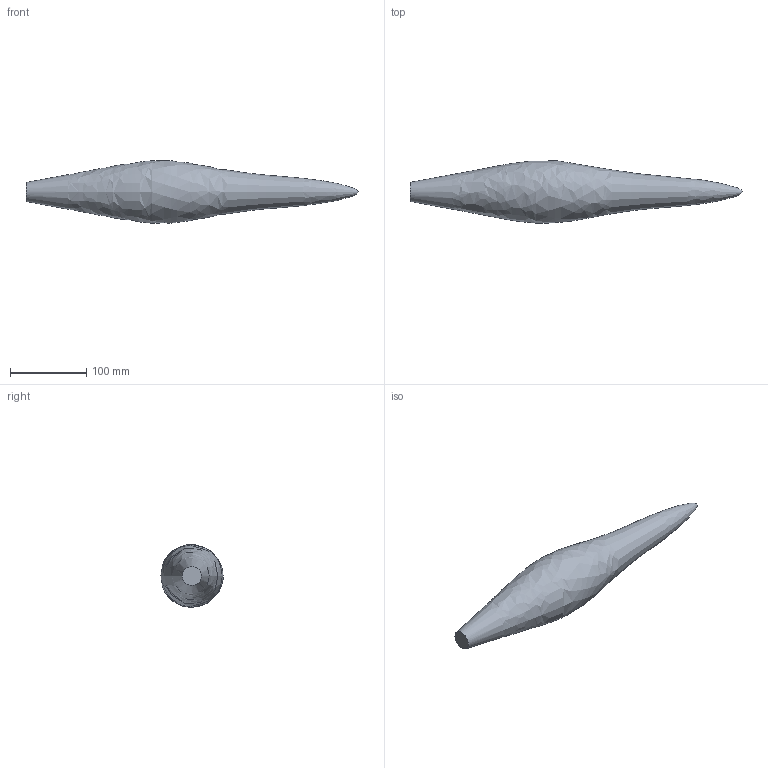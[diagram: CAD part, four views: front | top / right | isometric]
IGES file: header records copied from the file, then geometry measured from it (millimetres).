
Global section: file name: No Iges File Name specified; native system: Autodesk Inventor 2009; preprocessor: AutoDesk Inventor Iges Exporter R2009; author: Oliver Liedtke; date: 20120227.151915; units: millimetre
Bounding box: 436.16 x 81.54 x 81.97 mm (x, y, z)
Volume: 1071302.2 mm3; surface area: 72825.8 mm2
Topology: 1 solids, 1 shells, 2 faces, 3 edges, 2 vertices
Faces by surface type: bspline 1, plane 1
